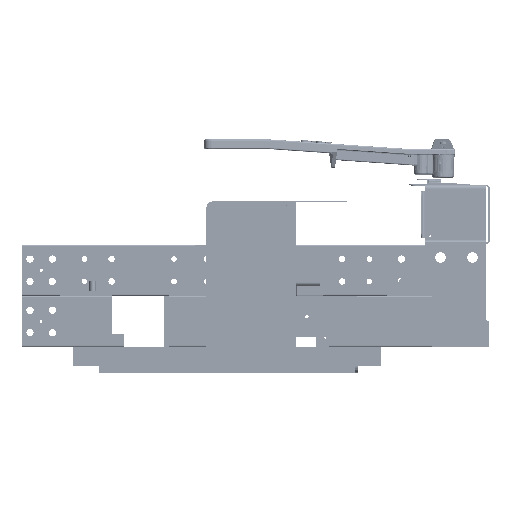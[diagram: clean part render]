
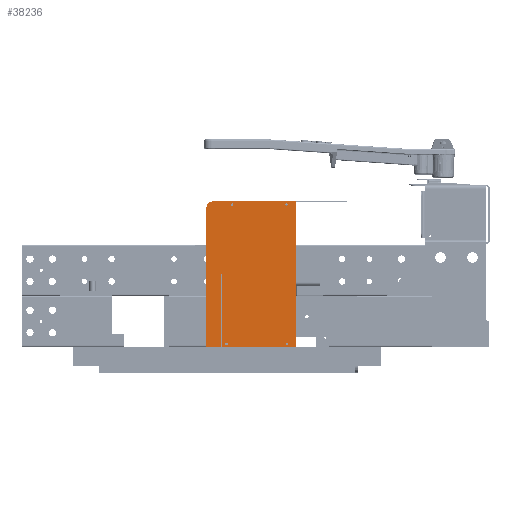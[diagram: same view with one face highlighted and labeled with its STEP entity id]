
A CAD part, left-side view. The second image highlights one B-rep face of the part: STEP entity #38236.
In plain terms, the highlighted planar face has unit normal (-1, 0, 0) as drawn and (0, 0, 1) by its records, which use the part's own axes.
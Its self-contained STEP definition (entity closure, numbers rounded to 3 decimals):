
#1950=FACE_BOUND('',#6943,.T.);
#1951=FACE_BOUND('',#6944,.T.);
#1952=FACE_BOUND('',#6945,.T.);
#1953=FACE_BOUND('',#6946,.T.);
#2828=PLANE('',#42505);
#4299=FACE_OUTER_BOUND('',#6942,.T.);
#6942=EDGE_LOOP('',(#30835,#30836,#30837,#30838,#30839,#30840,#30841,#30842,
#30843));
#6943=EDGE_LOOP('',(#30844));
#6944=EDGE_LOOP('',(#30845));
#6945=EDGE_LOOP('',(#30846));
#6946=EDGE_LOOP('',(#30847));
#9920=LINE('',#61668,#13023);
#9923=LINE('',#61674,#13026);
#9926=LINE('',#61680,#13029);
#9929=LINE('',#61686,#13032);
#9932=LINE('',#61692,#13035);
#9935=LINE('',#61698,#13038);
#9938=LINE('',#61704,#13041);
#9941=LINE('',#61708,#13044);
#13023=VECTOR('',#50191,0.394);
#13026=VECTOR('',#50196,0.394);
#13029=VECTOR('',#50201,0.394);
#13032=VECTOR('',#50206,0.394);
#13035=VECTOR('',#50211,0.394);
#13038=VECTOR('',#50216,0.394);
#13041=VECTOR('',#50221,0.394);
#13044=VECTOR('',#50226,0.394);
#15611=CIRCLE('',#42483,0.097);
#15613=CIRCLE('',#42486,0.097);
#15615=CIRCLE('',#42489,0.097);
#15617=CIRCLE('',#42492,0.097);
#15619=CIRCLE('',#42495,0.5);
#18124=VERTEX_POINT('',#61634);
#18126=VERTEX_POINT('',#61640);
#18128=VERTEX_POINT('',#61646);
#18130=VERTEX_POINT('',#61652);
#18133=VERTEX_POINT('',#61659);
#18134=VERTEX_POINT('',#61661);
#18136=VERTEX_POINT('',#61667);
#18138=VERTEX_POINT('',#61673);
#18140=VERTEX_POINT('',#61679);
#18142=VERTEX_POINT('',#61685);
#18144=VERTEX_POINT('',#61691);
#18146=VERTEX_POINT('',#61697);
#18148=VERTEX_POINT('',#61703);
#22621=EDGE_CURVE('',#18124,#18124,#15611,.T.);
#22624=EDGE_CURVE('',#18126,#18126,#15613,.T.);
#22627=EDGE_CURVE('',#18128,#18128,#15615,.T.);
#22630=EDGE_CURVE('',#18130,#18130,#15617,.T.);
#22633=EDGE_CURVE('',#18134,#18133,#15619,.T.);
#22636=EDGE_CURVE('',#18136,#18134,#9920,.T.);
#22639=EDGE_CURVE('',#18138,#18136,#9923,.T.);
#22642=EDGE_CURVE('',#18140,#18138,#9926,.T.);
#22645=EDGE_CURVE('',#18142,#18140,#9929,.T.);
#22648=EDGE_CURVE('',#18144,#18142,#9932,.T.);
#22651=EDGE_CURVE('',#18146,#18144,#9935,.T.);
#22654=EDGE_CURVE('',#18148,#18146,#9938,.T.);
#22657=EDGE_CURVE('',#18133,#18148,#9941,.T.);
#30835=ORIENTED_EDGE('',*,*,#22657,.T.);
#30836=ORIENTED_EDGE('',*,*,#22654,.T.);
#30837=ORIENTED_EDGE('',*,*,#22651,.T.);
#30838=ORIENTED_EDGE('',*,*,#22648,.T.);
#30839=ORIENTED_EDGE('',*,*,#22645,.T.);
#30840=ORIENTED_EDGE('',*,*,#22642,.T.);
#30841=ORIENTED_EDGE('',*,*,#22639,.T.);
#30842=ORIENTED_EDGE('',*,*,#22636,.T.);
#30843=ORIENTED_EDGE('',*,*,#22633,.T.);
#30844=ORIENTED_EDGE('',*,*,#22621,.T.);
#30845=ORIENTED_EDGE('',*,*,#22624,.T.);
#30846=ORIENTED_EDGE('',*,*,#22627,.T.);
#30847=ORIENTED_EDGE('',*,*,#22630,.T.);
#38236=ADVANCED_FACE('',(#4299,#1950,#1951,#1952,#1953),#2828,.T.);
#42483=AXIS2_PLACEMENT_3D('',#61636,#50157,#50158);
#42486=AXIS2_PLACEMENT_3D('',#61642,#50164,#50165);
#42489=AXIS2_PLACEMENT_3D('',#61648,#50171,#50172);
#42492=AXIS2_PLACEMENT_3D('',#61654,#50178,#50179);
#42495=AXIS2_PLACEMENT_3D('',#61662,#50185,#50186);
#42505=AXIS2_PLACEMENT_3D('',#61710,#50229,#50230);
#50157=DIRECTION('center_axis',(0.,0.,-1.));
#50158=DIRECTION('ref_axis',(-1.,0.,0.));
#50164=DIRECTION('center_axis',(0.,0.,-1.));
#50165=DIRECTION('ref_axis',(-1.,0.,0.));
#50171=DIRECTION('center_axis',(0.,0.,-1.));
#50172=DIRECTION('ref_axis',(-1.,0.,0.));
#50178=DIRECTION('center_axis',(0.,0.,-1.));
#50179=DIRECTION('ref_axis',(-1.,0.,0.));
#50185=DIRECTION('center_axis',(0.,0.,1.));
#50186=DIRECTION('ref_axis',(0.,-1.,0.));
#50191=DIRECTION('',(-1.,0.,0.));
#50196=DIRECTION('',(0.,1.,0.));
#50201=DIRECTION('',(1.,0.,0.));
#50206=DIRECTION('',(0.,-1.,0.));
#50211=DIRECTION('',(1.,0.,0.));
#50216=DIRECTION('',(0.,1.,0.));
#50221=DIRECTION('',(1.,0.,0.));
#50226=DIRECTION('',(0.,-1.,0.));
#50229=DIRECTION('center_axis',(0.,0.,1.));
#50230=DIRECTION('ref_axis',(1.,0.,0.));
#61634=CARTESIAN_POINT('',(1.66,0.25,0.125));
#61636=CARTESIAN_POINT('Origin',(1.563,0.25,0.125));
#61640=CARTESIAN_POINT('',(6.41,0.25,0.125));
#61642=CARTESIAN_POINT('Origin',(6.313,0.25,0.125));
#61646=CARTESIAN_POINT('',(2.097,11.125,0.125));
#61648=CARTESIAN_POINT('Origin',(2.,11.125,0.125));
#61652=CARTESIAN_POINT('',(6.347,11.125,0.125));
#61654=CARTESIAN_POINT('Origin',(6.25,11.125,0.125));
#61659=CARTESIAN_POINT('',(0.,10.875,0.125));
#61661=CARTESIAN_POINT('',(0.5,11.375,0.125));
#61662=CARTESIAN_POINT('Origin',(0.5,10.875,0.125));
#61667=CARTESIAN_POINT('',(7.,11.375,0.125));
#61668=CARTESIAN_POINT('',(0.5,11.375,0.125));
#61673=CARTESIAN_POINT('',(7.,0.,0.125));
#61674=CARTESIAN_POINT('',(7.,11.375,0.125));
#61679=CARTESIAN_POINT('',(1.25,0.,0.125));
#61680=CARTESIAN_POINT('',(7.,0.,0.125));
#61685=CARTESIAN_POINT('',(1.25,5.687,0.125));
#61686=CARTESIAN_POINT('',(1.25,0.,0.125));
#61691=CARTESIAN_POINT('',(1.125,5.687,0.125));
#61692=CARTESIAN_POINT('',(1.25,5.687,0.125));
#61697=CARTESIAN_POINT('',(1.125,0.,0.125));
#61698=CARTESIAN_POINT('',(1.125,5.687,0.125));
#61703=CARTESIAN_POINT('',(0.,0.,0.125));
#61704=CARTESIAN_POINT('',(1.125,0.,0.125));
#61708=CARTESIAN_POINT('',(0.,0.,0.125));
#61710=CARTESIAN_POINT('Origin',(2.979,4.976,0.125));
